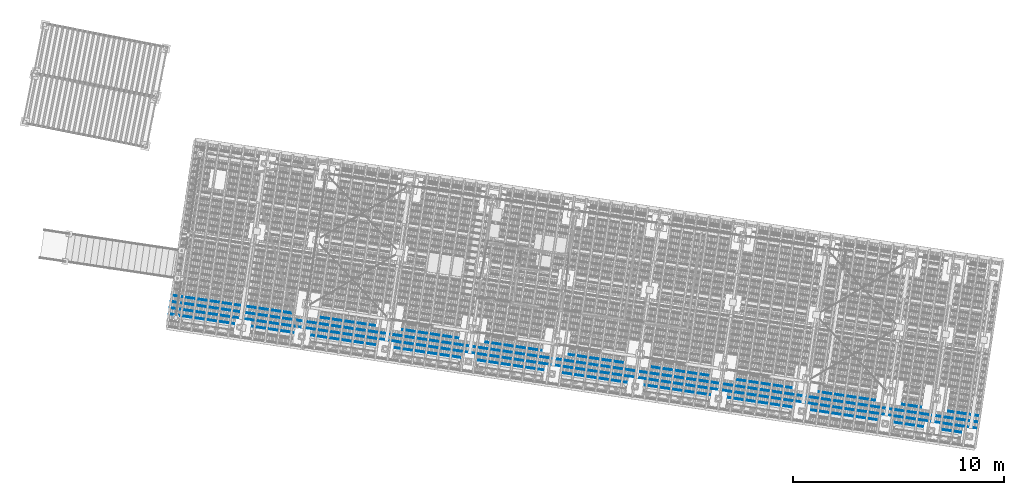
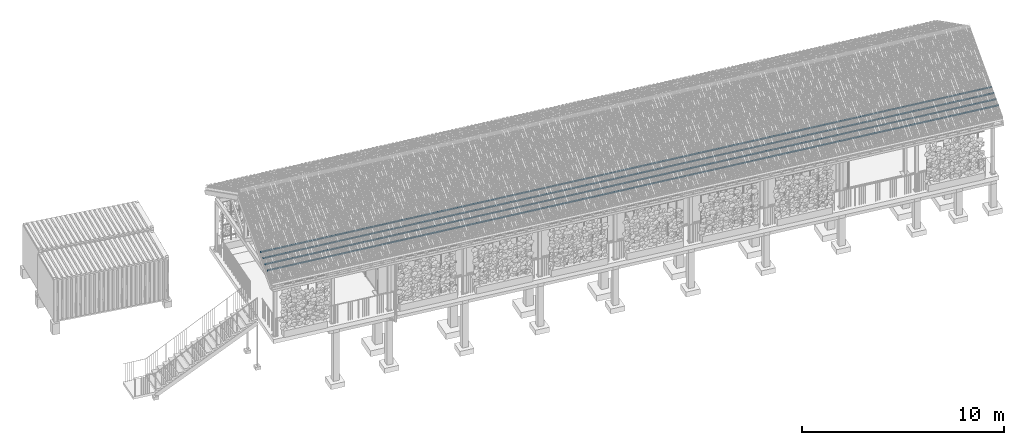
# One storey, part 69 of 131: 4 members, 1 element without a shape of its own.
"""IFC4 building model written with IfcOpenShell, lengths in metres."""

from ifc_helpers import new_model, si_unit, direction, frame, origin_with_axes, place, context, subcontext, project, spatial, rectangle, extrude, material, material_profile, profile_set, profile_usage, type_object, element, aggregate, save


model = new_model("IFC4")

# Units and contexts
model_context = context("Model", 3, precision=1e-05, world=origin_with_axes(), true_north=direction((0.0, 1.0)))
body_context = subcontext(model_context, "Body", "Model", "MODEL_VIEW")
ifc_project = project(units=[si_unit("VOLUMEUNIT", "CUBIC_METRE"), si_unit("LENGTHUNIT", "METRE"), si_unit("AREAUNIT", "SQUARE_METRE")], contexts=[model_context])

# Site, building, storey
site_placement = place(None, origin_with_axes())
site = spatial("IfcSite", under=ifc_project, at=site_placement, Name="Lares · Rua das Mercês · artigo 4771")
building_placement = place(site_placement, frame((15.0, 9.7, 15.8), z_axis=(0.0, 0.0, 1.0), x_axis=(0.989015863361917, -0.147809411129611, 0.0)))
building = spatial("IfcBuilding", under=site, at=building_placement, Name="Casa Sobreposta")
storey_placement = place(building_placement, origin_with_axes())
storey = spatial("IfcBuildingStorey", under=building, at=storey_placement, Name="00 · Habitação e estacionamento", Elevation=15.8)

# Roof, members
ifc_material = material(Name="Madeira / Bauholz", Category="wood")
roof_placement = place(storey_placement, origin_with_axes())
roof = element("IfcRoof", 1, at=roof_placement, inside=storey, material=ifc_material, Name="Cobertura de telha · duas águas 30 graus", PredefinedType="GABLE_ROOF")
ifc_material_profile = material_profile(ifc_material, rectangle(XDim=0.045, YDim=0.06))
ifc_profile_set = profile_set([ifc_material_profile], Name="TIMBER0.045x0.060")
ifc_profile_usage_1 = profile_usage(ifc_profile_set)
member_type = type_object("IfcMemberType", Name="TIMBER0.045x0.060 / timber", PredefinedType="NOTDEFINED", material=ifc_profile_set)
member_1_placement = place(roof_placement, frame((-6.4, -1.3, 3.88041016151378), z_axis=(1.0, 0.0, 0.0), x_axis=(0.0, -1.0, 0.0)))
member_1 = element("IfcMember", 2, at=member_1_placement, type_object=member_type, material=ifc_profile_usage_1, Name="Cobertura · ripa ventilada", context=body_context, shape_type="SweptSolid", body=[
    extrude(rectangle(XDim=0.045, YDim=0.06), origin_with_axes(), (0.0, 0.0, 1.0), 38.8),
])
ifc_profile_usage_2 = profile_usage(ifc_profile_set)
member_2_placement = place(roof_placement, frame((-6.4, -1.0, 4.05361524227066), z_axis=(1.0, 0.0, 0.0), x_axis=(0.0, -1.0, 0.0)))
member_2 = element("IfcMember", 3, at=member_2_placement, type_object=member_type, material=ifc_profile_usage_2, Name="Cobertura · ripa ventilada", context=body_context, shape_type="SweptSolid", body=[
    extrude(rectangle(XDim=0.045, YDim=0.06), origin_with_axes(), (0.0, 0.0, 1.0), 38.8),
])
ifc_profile_usage_3 = profile_usage(ifc_profile_set)
member_3_placement = place(roof_placement, frame((-6.4, -0.7, 4.22682032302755), z_axis=(1.0, 0.0, 0.0), x_axis=(0.0, -1.0, 0.0)))
member_3 = element("IfcMember", 4, at=member_3_placement, type_object=member_type, material=ifc_profile_usage_3, Name="Cobertura · ripa ventilada", context=body_context, shape_type="SweptSolid", body=[
    extrude(rectangle(XDim=0.045, YDim=0.06), origin_with_axes(), (0.0, 0.0, 1.0), 38.8),
])
ifc_profile_usage_4 = profile_usage(ifc_profile_set)
member_4_placement = place(roof_placement, frame((-6.4, -0.4, 4.40002540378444), z_axis=(1.0, 0.0, 0.0), x_axis=(0.0, -1.0, 0.0)))
member_4 = element("IfcMember", 5, at=member_4_placement, type_object=member_type, material=ifc_profile_usage_4, Name="Cobertura · ripa ventilada", context=body_context, shape_type="SweptSolid", body=[
    extrude(rectangle(XDim=0.045, YDim=0.06), origin_with_axes(), (0.0, 0.0, 1.0), 38.8),
])
aggregate(roof, [member_1, member_2, member_3, member_4])

save(model, "model.ifc")
